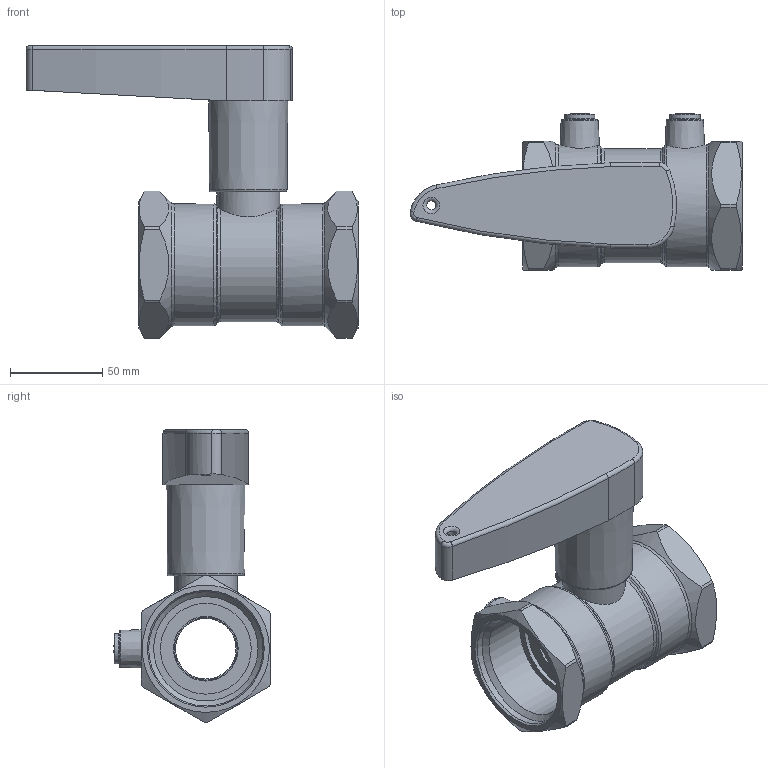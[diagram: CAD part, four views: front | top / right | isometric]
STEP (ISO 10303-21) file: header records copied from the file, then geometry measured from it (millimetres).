
FILE_DESCRIPTION(/* description */ (''),/* implementation_level */ '2;1');
FILE_NAME(/* name */ '\\dataserver\data\Nexus Valves\Inventor\2021_NexusValves Cad\3_Relax\nexus_relax_dn50.stp',/* time_stamp */ '2021-09-03T11:07:20+02:00',/* author */ ('kasius'),/* organization */ (''),/* preprocessor_version */ 'ST-DEVELOPER v17',/* originating_system */ 'Autodesk Inventor 2018',/* authorisation */ '');
FILE_SCHEMA (('AUTOMOTIVE_DESIGN { 1 0 10303 214 3 1 1 }'));
Length unit declared in the file: millimetre
Products named in the file (1): nexus_vertex_dn50
Bounding box: 180 x 85 x 158.8 mm (x, y, z)
Volume: 440781.6 mm3; surface area: 79295.6 mm2
Topology: 3 solids, 3 shells, 129 faces, 376 edges, 261 vertices
Faces by surface type: cylinder 41, plane 37, cone 24, torus 21, bspline 6
Full cylindrical faces by diameter (mm): 5 x1, 16.5 x2, 32.8 x1, 34 x3, 35 x2, 49.236 x1, 50.6 x1, 56.6 x2, 61.95 x2, 66 x2
Entity records: 4903 total; most frequent: CARTESIAN_POINT 1340, DIRECTION 780, ORIENTED_EDGE 752, EDGE_CURVE 376, AXIS2_PLACEMENT_3D 350, VERTEX_POINT 261, CIRCLE 217, EDGE_LOOP 141
